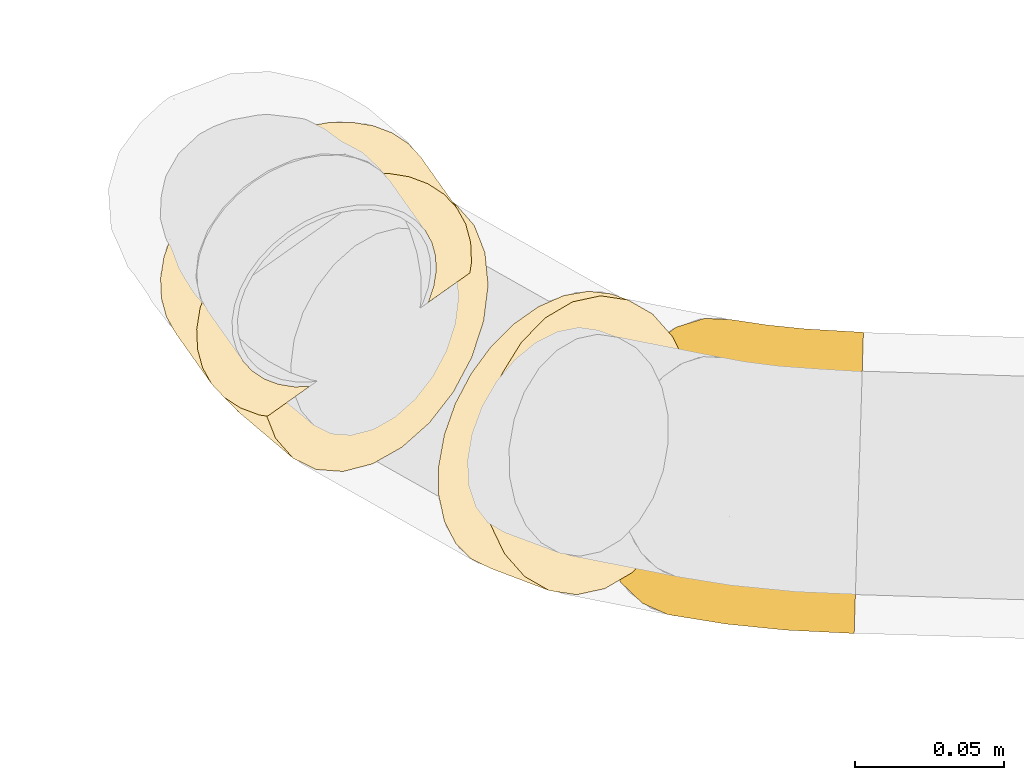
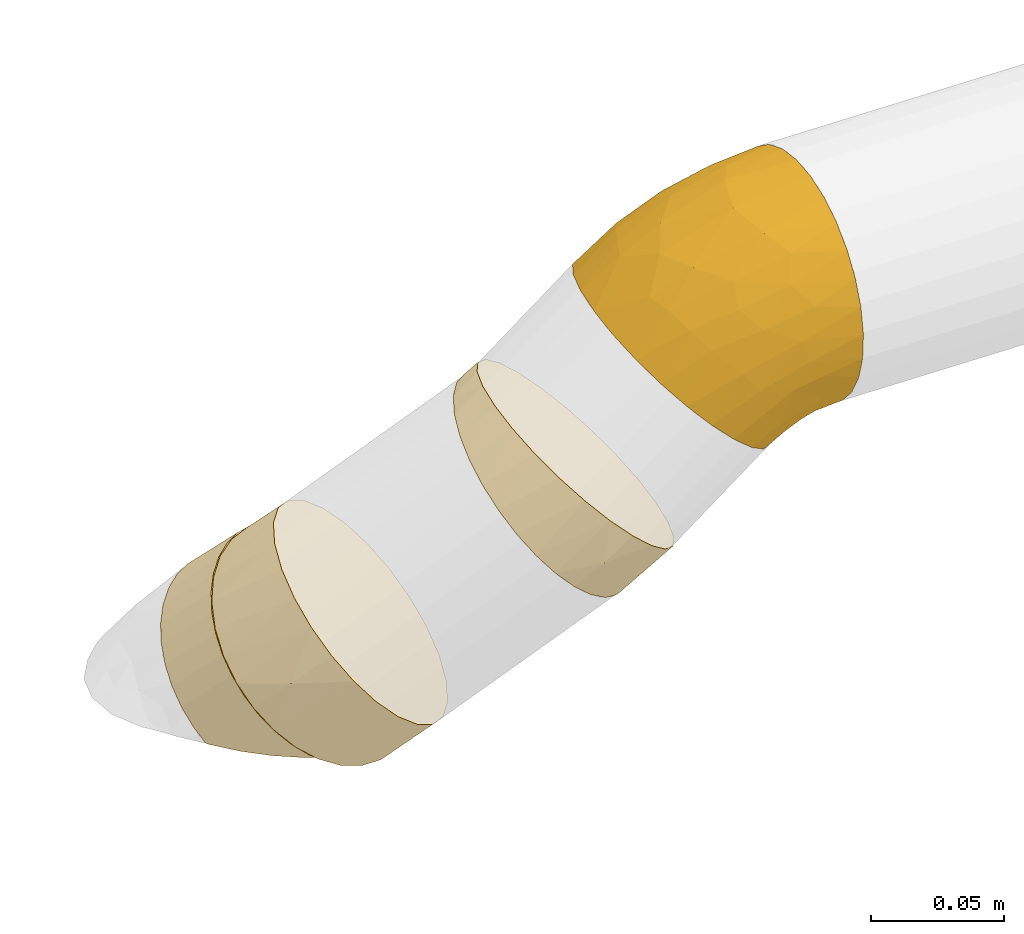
# One storey, part 31 of 156: 4 coverings.
"""IFC2X3 building model written with IfcOpenShell, lengths in millimetres."""

from ifc_helpers import new_model, entity, si_unit, converted_unit, derived_unit, direction, frame, origin_with_axes, place, context, subcontext, project, spatial, open_shell, faceted_brep, surface_model, source, transform, mapped, element, save


model = new_model("IFC2X3")

# Units and contexts
model_context = context("Model", 3, precision=0.01, world=frame((0.0, 4.29681676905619e-09, 0.0)), true_north=direction((4.01073788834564e-13, 1.0)))
plan_context = context("Plan", 3, precision=0.01, world=frame((0.0, 4.29681676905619e-09, 0.0)), true_north=direction((4.01073788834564e-13, 1.0)))
body_context = subcontext(model_context, "Body", "Model", "MODEL_VIEW")
ifc_project = project(units=[converted_unit("PLANEANGLEUNIT", "DEGREE", entity("IfcPositiveLengthMeasure", 0.0174532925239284), si_unit("PLANEANGLEUNIT", "RADIAN"), dimensions=[0, 0, 0, 0, 0, 0, 0]), si_unit("AREAUNIT", "SQUARE_METRE"), si_unit("LENGTHUNIT", "METRE", prefix="MILLI"), si_unit("MASSUNIT", "GRAM", prefix="KILO"), si_unit("POWERUNIT", "WATT"), si_unit("PRESSUREUNIT", "PASCAL", prefix="KILO"), si_unit("FORCEUNIT", "NEWTON", prefix="KILO"), si_unit("ELECTRICVOLTAGEUNIT", "VOLT"), si_unit("ELECTRICCURRENTUNIT", "AMPERE"), si_unit("THERMODYNAMICTEMPERATUREUNIT", "DEGREE_CELSIUS"), si_unit("TIMEUNIT", "SECOND"), si_unit("VOLUMEUNIT", "CUBIC_METRE"), derived_unit("LINEARVELOCITYUNIT", [(si_unit("LENGTHUNIT", "METRE"), 1), (si_unit("TIMEUNIT", "SECOND"), -1)]), derived_unit("VOLUMETRICFLOWRATEUNIT", [(si_unit("VOLUMEUNIT", "CUBIC_METRE"), 1), (si_unit("TIMEUNIT", "SECOND"), -1)]), derived_unit("THERMALTRANSMITTANCEUNIT", [(si_unit("POWERUNIT", "WATT"), 1), (si_unit("THERMODYNAMICTEMPERATUREUNIT", "KELVIN"), -1), (si_unit("AREAUNIT", "SQUARE_METRE"), -1)]), derived_unit("SOUNDPRESSUREUNIT", [(si_unit("PRESSUREUNIT", "PASCAL"), 1)])], contexts=[model_context, plan_context])

# Site, building, storey
site_placement = place(None, frame((0.0, -4.29681676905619e-09, 0.0), z_axis=(0.0, 0.0, 1.0), x_axis=(1.0, 0.0, 0.0)))
site = spatial("IfcSite", under=ifc_project, at=site_placement, CompositionType="ELEMENT")
building_placement = place(site_placement, frame((0.0, 4.29681676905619e-09, 0.0), z_axis=(0.0, 0.0, 1.0), x_axis=(1.0, 0.0, 0.0)))
building = spatial("IfcBuilding", under=site, at=building_placement, Name="mc-building", CompositionType="ELEMENT")
storey_placement = place(building_placement, frame((0.0, 0.0, 205200.0), z_axis=(0.0, 0.0, 1.0), x_axis=(1.0, 0.0, 0.0)))
storey = spatial("IfcBuildingStorey", under=building, at=storey_placement, Name="Nivå D + 1,2 m", CompositionType="ELEMENT", Elevation=205200.0)

# Coverings
shared_shape_1 = source(origin_with_axes(), body_context, "Body", "SurfaceModel", [
    surface_model("IfcShellBasedSurfaceModel", [(-2.96418, 49.99276, 11.24292), (-2.06482, 46.37267, -21.90382), (-3.26977, 51.22279, 0.0), (1.31637, 32.76283, 39.48835), (-2.06305, 46.36553, 21.91909), (3.62499, 23.47025, 45.50245), (6.19832, 13.11219, 49.23533), (18.42713, -36.11075, 31.47888), (-0.61188, 40.52435, 31.49394), (16.49962, -28.35219, 39.47635), (1.31274, 32.77744, -39.47635), (-0.61477, 40.53601, -31.47888), (-2.96485, 49.99543, -11.23089), (3.62131, 23.48507, -45.49509), (6.19542, 13.12386, -49.23258), (20.77654, -45.56751, -11.24292), (14.18736, -19.04499, -45.50245), (8.90618, 2.21263, -50.5), (8.90618, 2.21263, 50.5), (11.61694, -8.69861, 49.23258), (14.19105, -19.05982, 45.49509), (20.7772, -45.57017, 11.23089), (19.87718, -41.94742, 21.90382), (16.49599, -28.33758, -39.48835), (11.61403, -8.68693, -49.23533), (18.42424, -36.0991, -31.49394), (19.8754, -41.94028, -21.91909), (21.08213, -46.79754, 0.0), (-9.17691, 25.25, -43.73428), (-9.17691, 50.5, 0.0), (-9.17691, 48.77925, -13.07036), (-9.17691, 43.73428, -25.25), (-9.17691, 13.07036, 48.77925), (-9.17691, 35.70889, -35.70889), (-9.17691, 13.07036, -48.77925), (-9.17691, 48.77925, 13.07036), (-9.17691, 35.70889, 35.70889), (-9.17691, 43.73428, 25.25), (-9.17691, 25.25, 43.73428), (-9.17691, 0.0, 50.5), (-9.17691, 0.0, -50.5), (-9.17691, -35.70889, -35.70889), (-9.17691, -13.07036, -48.77925), (-9.17691, -25.25, -43.73428), (-9.17691, -25.25, 43.73428), (-9.17691, -43.73428, -25.25), (-9.17691, -48.77925, -13.07036), (-9.17691, -50.5, 0.0), (-9.17691, -35.70889, 35.70889), (-9.17691, -13.07036, 48.77925), (-9.17691, -43.73428, 25.25), (-9.17691, -48.77925, 13.07036), (-0.06794, 0.55521, 50.5), (6.06544, -49.57095, 0.0), (-6.20131, 50.68137, 0.0), (-0.06794, 0.55521, -50.5)], [open_shell([[[0, 1, 2]], [[3, 0, 4]], [[5, 6, 3]], [[7, 1, 0]], [[4, 8, 3]], [[9, 0, 3]], [[1, 10, 11]], [[1, 12, 2]], [[13, 10, 14]], [[14, 10, 1]], [[1, 15, 14]], [[16, 17, 14]], [[3, 6, 18]], [[18, 19, 20]], [[20, 9, 3]], [[7, 21, 1]], [[22, 21, 7]], [[7, 0, 9]], [[1, 21, 15]], [[16, 15, 23]], [[16, 24, 17]], [[15, 25, 23]], [[26, 25, 15]], [[15, 16, 14]], [[21, 27, 15]], [[3, 18, 20]], [[28, 29, 30]], [[28, 30, 31]], [[29, 28, 32]], [[28, 31, 33]], [[32, 28, 34]], [[35, 36, 37]], [[36, 35, 32]], [[36, 32, 38]], [[35, 29, 32]], [[34, 39, 32]], [[34, 40, 39]], [[41, 40, 42]], [[41, 42, 43]], [[44, 41, 45]], [[41, 44, 39]], [[46, 47, 45]], [[44, 47, 48]], [[49, 39, 44]], [[50, 47, 51]], [[47, 50, 48]], [[45, 47, 44]], [[39, 40, 41]], [[7, 48, 50]], [[48, 9, 44]], [[51, 22, 50]], [[52, 49, 19]], [[52, 39, 49]], [[20, 49, 44]], [[51, 47, 53]], [[22, 7, 50]], [[51, 21, 22]], [[27, 21, 53]], [[52, 19, 18]], [[9, 20, 44]], [[19, 49, 20]], [[48, 7, 9]], [[53, 21, 51]], [[32, 39, 52]], [[36, 38, 3]], [[32, 5, 38]], [[35, 37, 4]], [[37, 36, 8]], [[29, 35, 54]], [[6, 32, 52]], [[8, 36, 3]], [[6, 5, 32]], [[3, 38, 5]], [[4, 0, 35]], [[37, 8, 4]], [[0, 2, 54]], [[54, 35, 0]], [[6, 52, 18]], [[31, 30, 1]], [[54, 30, 29]], [[33, 31, 11]], [[34, 28, 13]], [[28, 33, 10]], [[40, 34, 55]], [[12, 30, 54]], [[11, 31, 1]], [[30, 12, 1]], [[10, 33, 11]], [[13, 14, 34]], [[28, 10, 13]], [[14, 17, 55]], [[55, 34, 14]], [[12, 54, 2]], [[16, 43, 42]], [[40, 55, 42]], [[41, 43, 23]], [[26, 46, 45]], [[45, 41, 25]], [[46, 53, 47]], [[24, 42, 55]], [[24, 16, 42]], [[23, 43, 16]], [[41, 23, 25]], [[26, 15, 46]], [[45, 25, 26]], [[15, 27, 53]], [[53, 46, 15]], [[24, 55, 17]]])]),
])
covering_1_placement = place(storey_placement, frame((334001.44758, 461087.74219, 4101.22159999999), z_axis=(0.709334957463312, 0.0249469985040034, -0.70442995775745), x_axis=(-0.700370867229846, 0.137698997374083, -0.700371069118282)))
element("IfcCovering", 1, at=covering_1_placement, inside=storey, Name="BI17T - Cellegummi 13 mm SPV fett", PredefinedType="INSULATION", context=body_context, shape_type="MappedRepresentation", body=[
    mapped(shared_shape_1, transform((0.0, 0.0, 0.0), scale=1.0)),
])
shared_shape_2 = source(origin_with_axes(), body_context, "Body", "SurfaceModel", [
    surface_model("IfcShellBasedSurfaceModel", [(-4.14386, 50.62592, 11.24292), (-4.14475, 50.62852, -11.23089), (-4.55499, 51.82481, 0.0), (-0.97912, 41.39725, 31.49394), (-2.93149, 47.09053, 21.91909), (4.72109, 24.77493, 45.50245), (8.1832, 14.67913, 49.23533), (1.61512, 33.83223, 39.48835), (8.1793, 14.69051, -49.23258), (24.63561, -33.29753, 31.47888), (-0.98301, 41.40861, -31.47888), (-2.93387, 47.09749, -21.90382), (4.71614, 24.78938, -45.49509), (1.61023, 33.84648, -39.47635), (15.4694, -6.56806, -49.23533), (11.8263, 4.05554, -50.5), (11.8263, 4.05554, 50.5), (15.4733, -6.57944, 49.23258), (18.93646, -16.67831, 45.49509), (26.58647, -38.98642, 21.90382), (22.04237, -25.7354, 39.47635), (27.79646, -42.51485, -11.24292), (27.79735, -42.51744, 11.23089), (22.03748, -25.72116, -39.48835), (18.9315, -16.66386, -45.50245), (26.58409, -38.97946, -21.91909), (24.63172, -33.28617, -31.49394), (28.20759, -43.71373, 0.0), (-12.50235, 25.25, -43.73428), (-12.50235, 50.5, 0.0), (-12.50235, 48.77925, -13.07036), (-12.50235, 43.73428, -25.25), (-12.50235, 13.07036, 48.77925), (-12.50235, 35.70889, -35.70889), (-12.50235, 13.07036, -48.77925), (-12.50235, 48.77925, 13.07036), (-12.50235, 35.70889, 35.70889), (-12.50235, 43.73428, 25.25), (-12.50235, 25.25, 43.73428), (-12.50235, 0.0, 50.5), (-12.50235, 0.0, -50.5), (-12.50235, -35.70889, -35.70889), (-12.50235, -13.07036, -48.77925), (-12.50235, -25.25, -43.73428), (-12.50235, -25.25, 43.73428), (-12.50235, -43.73428, -25.25), (-12.50235, -48.77925, -13.07036), (-12.50235, -50.5, 0.0), (-12.50235, -35.70889, 35.70889), (-12.50235, -13.07036, 48.77925), (-12.50235, -43.73428, 25.25), (-12.50235, -48.77925, 13.07036), (-0.17017, 1.02083, 50.5), (8.1335, -48.79181, 0.0), (-8.47384, 50.83347, 0.0), (-0.17017, 1.02083, -50.5)], [open_shell([[[0, 1, 2]], [[3, 0, 4]], [[5, 6, 7]], [[8, 0, 7]], [[0, 3, 7]], [[9, 8, 7]], [[1, 10, 11]], [[1, 0, 10]], [[12, 13, 8]], [[8, 13, 10]], [[8, 10, 0]], [[8, 14, 15]], [[9, 7, 6]], [[9, 16, 17]], [[9, 17, 18]], [[14, 8, 9]], [[9, 19, 14]], [[9, 18, 20]], [[21, 19, 22]], [[14, 23, 24]], [[23, 14, 21]], [[25, 23, 21]], [[26, 23, 25]], [[14, 19, 21]], [[22, 27, 21]], [[9, 6, 16]], [[28, 29, 30]], [[28, 30, 31]], [[29, 28, 32]], [[28, 31, 33]], [[32, 28, 34]], [[35, 36, 37]], [[36, 35, 32]], [[36, 32, 38]], [[35, 29, 32]], [[34, 39, 32]], [[34, 40, 39]], [[41, 40, 42]], [[41, 42, 43]], [[44, 41, 45]], [[40, 41, 44]], [[46, 47, 45]], [[44, 47, 48]], [[49, 39, 44]], [[50, 47, 51]], [[47, 50, 48]], [[45, 47, 44]], [[44, 39, 40]], [[9, 48, 50]], [[48, 20, 44]], [[51, 19, 50]], [[52, 49, 17]], [[52, 39, 49]], [[18, 49, 44]], [[51, 47, 53]], [[19, 9, 50]], [[51, 22, 19]], [[27, 22, 53]], [[52, 17, 16]], [[20, 18, 44]], [[17, 49, 18]], [[48, 9, 20]], [[53, 22, 51]], [[32, 39, 52]], [[36, 38, 7]], [[32, 5, 38]], [[35, 37, 4]], [[37, 36, 3]], [[29, 35, 54]], [[6, 32, 52]], [[3, 36, 7]], [[6, 5, 32]], [[7, 38, 5]], [[4, 0, 35]], [[37, 3, 4]], [[0, 2, 54]], [[54, 35, 0]], [[6, 52, 16]], [[31, 30, 11]], [[54, 30, 29]], [[33, 31, 10]], [[34, 28, 12]], [[28, 33, 13]], [[40, 34, 55]], [[1, 30, 54]], [[10, 31, 11]], [[30, 1, 11]], [[13, 33, 10]], [[12, 8, 34]], [[28, 13, 12]], [[8, 15, 55]], [[55, 34, 8]], [[1, 54, 2]], [[24, 43, 42]], [[40, 55, 42]], [[41, 43, 23]], [[25, 46, 45]], [[45, 41, 26]], [[46, 53, 47]], [[14, 42, 55]], [[14, 24, 42]], [[23, 43, 24]], [[41, 23, 26]], [[25, 21, 46]], [[45, 26, 25]], [[21, 27, 53]], [[53, 46, 21]], [[14, 55, 15]]])]),
])
covering_2_placement = place(storey_placement, frame((333928.09222, 461129.09587, 4028.82000000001), z_axis=(0.361591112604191, -0.603222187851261, -0.710897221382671), x_axis=(-0.660534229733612, 0.372372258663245, -0.651945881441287)))
element("IfcCovering", 2, at=covering_2_placement, inside=storey, Name="BI17T - Cellegummi 13 mm SPV fett", PredefinedType="INSULATION", context=body_context, shape_type="MappedRepresentation", body=[
    mapped(shared_shape_2, transform((0.0, 0.0, 0.0), scale=1.0)),
])
shared_shape_3 = source(origin_with_axes(), body_context, "Body", "SurfaceModel", [
    surface_model("IfcShellBasedSurfaceModel", [(-12.94917, 56.85294, 11.24292), (-12.95112, 56.85487, -11.23089), (-13.84896, 57.74554, 0.0), (-6.02285, 49.98198, 31.49394), (-10.29578, 54.22076, 21.91909), (6.45256, 37.60628, 45.50245), (14.02969, 30.08972, 49.23533), (-0.34514, 44.34965, 39.48835), (56.95502, -12.49251, -11.24292), (6.44172, 37.61704, -45.49509), (54.30686, -9.86551, 21.90382), (-10.30101, 54.22594, -21.90382), (-6.03137, 49.99043, -31.47888), (-0.35583, 44.36026, -39.47635), (50.0287, -5.62155, -31.49394), (22.00293, 22.18021, -50.5), (14.02115, 30.0982, -49.23258), (22.00293, 22.18021, 50.5), (29.98471, 14.26223, 49.23258), (37.56413, 6.74339, 45.49509), (44.36168, 0.00017, 39.47635), (50.03723, -5.63, 31.47888), (56.95697, -12.49444, 11.23089), (37.55329, 6.75415, -45.50245), (44.35099, 0.01078, -39.48835), (29.97617, 14.27071, -49.23533), (54.30164, -9.86033, -21.91909), (57.85482, -13.38511, 0.0), (-31.24245, 25.25, -43.73428), (-31.24245, 50.5, 0.0), (-31.24245, 48.77925, -13.07036), (-31.24245, 43.73428, -25.25), (-31.24245, 13.07036, 48.77925), (-31.24245, 35.70889, -35.70889), (-31.24245, 13.07036, -48.77925), (-31.24245, 48.77925, 13.07036), (-31.24245, 35.70889, 35.70889), (-31.24245, 43.73428, 25.25), (-31.24245, 25.25, 43.73428), (-31.24245, 0.0, 50.5), (-31.24245, 0.0, -50.5), (-31.24245, -35.70889, -35.70889), (-31.24245, -13.07036, -48.77925), (-31.24245, -25.25, -43.73428), (-31.24245, -25.25, 43.73428), (-31.24245, -43.73428, -25.25), (-31.24245, -48.77925, -13.07036), (-31.24245, -50.5, 0.0), (-31.24245, -35.70889, 35.70889), (-31.24245, -13.07036, 48.77925), (-31.24245, -43.73428, 25.25), (-31.24245, -48.77925, 13.07036), (28.0528, -19.58459, 34.75907), (1.40145, -46.18014, 0.0), (-11.33865, -47.402, 12.17772), (-8.79725, -38.4658, 29.9441), (31.79806, -33.51794, 0.0), (7.79712, -42.40956, 13.2531), (-9.19134, -30.92077, 38.0599), (34.45125, -28.88256, 15.96037), (15.05712, -34.29835, 25.30863), (-2.40223, 5.76676, 50.5), (-9.58845, -7.00078, 49.53767), (10.05879, 2.01758, 49.71699), (-8.37202, -17.63575, 46.18862), (9.52049, -20.68631, 41.33806), (14.94482, -6.28727, 46.99224), (-9.37202, -44.10716, 20.62001), (8.94004, -30.30636, 33.58619), (36.32581, -21.9885, 26.14661), (27.91073, -9.13118, 42.12944), (-20.96641, 48.58428, 19.32551), (-26.59828, 47.21533, 18.9001), (-22.71435, 42.80531, 28.49178), (-14.01421, 12.68328, 49.42891), (-1.19155, 17.53037, 49.46992), (-21.99373, 19.66772, 46.82987), (-11.05788, 23.11328, 46.65592), (-16.43611, 51.25023, 18.44017), (-19.41246, 52.3762, 10.14774), (8.36808, 13.01023, 50.5), (-24.42861, 50.35346, 10.34565), (-18.30301, 54.75001, 0.0), (-23.03498, 36.57233, 35.71216), (-19.33126, 30.03512, 41.70011), (-15.84224, 38.84534, 35.7157), (-8.65532, 42.84183, 35.7157), (-5.61147, 34.25086, 42.76423), (-14.07786, 47.7027, 26.87553), (-1.32771, 26.99128, 47.01535), (-21.82131, 52.38381, 0.0), (-25.97899, 51.55246, 0.0), (-15.1298, 3.22181, 50.5), (-3.601, 35.60565, -42.7546), (-10.81307, 41.44562, -35.70208), (-0.91829, 25.19066, -47.6637), (-12.72704, 48.61204, -26.86021), (-26.53188, 51.4419, 0.0), (-24.01001, 48.96781, -15.74791), (-16.82234, 2.88338, -50.5), (-18.63585, 45.33152, -26.86021), (-19.60152, 37.47976, -35.70238), (-24.76112, 42.23385, -28.63172), (-15.38913, 17.92603, -47.97613), (-22.25111, 29.52633, -41.58919), (-17.02894, 51.65508, -16.67216), (-2.40223, 5.76676, -50.5), (-12.42278, 30.70796, -42.7546), (8.36808, 13.01023, -50.5), (-9.61163, -6.99574, -49.5398), (14.93948, -6.27462, -46.9976), (-8.36588, -17.62047, -46.19453), (28.04683, -19.57294, -34.77281), (36.32066, -21.98087, -26.1618), (15.05252, -34.29089, -25.3236), (34.44643, -28.88031, -15.97381), (-11.34949, -47.40054, -12.19054), (10.02146, 1.99916, -49.71741), (7.77533, -42.41366, -13.26406), (-9.18547, -30.91642, -38.06257), (-8.80762, -38.46757, -29.94447), (-9.38168, -44.10586, -20.62675), (9.51638, -20.67224, -41.34827), (27.90261, -9.11858, -42.13933), (8.94202, -30.30822, -33.58345)], [open_shell([[[0, 1, 2]], [[3, 0, 4]], [[5, 6, 7]], [[8, 9, 0]], [[0, 3, 7]], [[0, 7, 10]], [[11, 9, 12]], [[11, 1, 0]], [[13, 12, 9]], [[14, 15, 16]], [[0, 9, 11]], [[9, 14, 16]], [[7, 6, 17]], [[7, 18, 10]], [[10, 18, 19]], [[20, 21, 10]], [[8, 0, 10]], [[10, 19, 20]], [[8, 10, 22]], [[23, 14, 24]], [[23, 25, 15]], [[15, 14, 23]], [[26, 14, 8]], [[8, 14, 9]], [[22, 27, 8]], [[18, 7, 17]], [[28, 29, 30]], [[28, 30, 31]], [[29, 28, 32]], [[28, 31, 33]], [[32, 28, 34]], [[35, 36, 37]], [[36, 35, 32]], [[36, 32, 38]], [[35, 29, 32]], [[34, 39, 32]], [[34, 40, 39]], [[41, 40, 42]], [[41, 42, 43]], [[44, 41, 45]], [[41, 44, 39]], [[46, 47, 45]], [[44, 47, 48]], [[49, 39, 44]], [[50, 47, 51]], [[47, 50, 48]], [[45, 47, 44]], [[39, 40, 41]], [[20, 52, 21]], [[47, 53, 54]], [[50, 55, 48]], [[53, 56, 57]], [[58, 44, 48]], [[59, 60, 57]], [[61, 62, 63]], [[58, 64, 44]], [[62, 39, 49]], [[64, 65, 66]], [[54, 67, 51]], [[65, 58, 68]], [[55, 58, 48]], [[64, 62, 49]], [[59, 57, 56]], [[56, 22, 59]], [[10, 21, 69]], [[10, 69, 59]], [[66, 62, 64]], [[27, 22, 56]], [[70, 52, 20]], [[44, 64, 49]], [[60, 55, 67]], [[63, 17, 61]], [[19, 18, 66]], [[66, 65, 70]], [[59, 69, 60]], [[52, 69, 21]], [[19, 70, 20]], [[54, 57, 67]], [[66, 63, 62]], [[10, 59, 22]], [[39, 62, 61]], [[69, 52, 60]], [[67, 55, 50]], [[60, 52, 68]], [[68, 58, 55]], [[58, 65, 64]], [[60, 68, 55]], [[65, 68, 52]], [[66, 18, 63]], [[17, 63, 18]], [[51, 67, 50]], [[60, 67, 57]], [[66, 70, 19]], [[52, 70, 65]], [[47, 54, 51]], [[53, 57, 54]], [[71, 72, 73]], [[74, 61, 75]], [[32, 74, 76]], [[77, 74, 75]], [[78, 79, 71]], [[80, 6, 75]], [[71, 81, 72]], [[0, 82, 79]], [[83, 84, 85]], [[86, 87, 7]], [[73, 88, 71]], [[77, 89, 87]], [[87, 5, 7]], [[6, 5, 89]], [[3, 86, 7]], [[0, 79, 78]], [[84, 36, 38]], [[89, 77, 75]], [[80, 75, 61]], [[76, 77, 84]], [[90, 91, 81]], [[78, 71, 88]], [[79, 81, 71]], [[84, 87, 85]], [[82, 90, 79]], [[0, 2, 82]], [[88, 3, 4]], [[86, 88, 85]], [[81, 79, 90]], [[74, 92, 61]], [[80, 17, 6]], [[35, 91, 29]], [[32, 39, 92]], [[91, 35, 81]], [[72, 81, 35]], [[35, 37, 72]], [[73, 85, 88]], [[72, 37, 73]], [[36, 73, 37]], [[76, 74, 77]], [[32, 92, 74]], [[77, 87, 84]], [[38, 32, 76]], [[85, 73, 83]], [[38, 76, 84]], [[88, 86, 3]], [[87, 86, 85]], [[88, 4, 78]], [[0, 78, 4]], [[6, 89, 75]], [[5, 87, 89]], [[73, 36, 83]], [[36, 84, 83]], [[93, 94, 13]], [[9, 16, 95]], [[94, 96, 12]], [[30, 97, 98]], [[34, 99, 40]], [[100, 101, 102]], [[103, 28, 104]], [[82, 2, 1]], [[94, 101, 100]], [[98, 105, 100]], [[98, 100, 102]], [[99, 34, 103]], [[11, 105, 1]], [[106, 103, 95]], [[12, 96, 11]], [[12, 13, 94]], [[31, 30, 98]], [[33, 101, 104]], [[96, 105, 11]], [[100, 96, 94]], [[103, 107, 95]], [[93, 13, 9]], [[106, 95, 108]], [[95, 16, 108]], [[82, 105, 90]], [[93, 95, 107]], [[101, 94, 107]], [[98, 90, 105]], [[28, 103, 34]], [[105, 82, 1]], [[16, 15, 108]], [[103, 106, 99]], [[105, 96, 100]], [[95, 93, 9]], [[94, 93, 107]], [[104, 101, 107]], [[102, 33, 31]], [[103, 104, 107]], [[33, 104, 28]], [[33, 102, 101]], [[98, 102, 31]], [[97, 30, 29]], [[97, 90, 98]], [[109, 110, 111]], [[112, 113, 114]], [[106, 109, 40]], [[112, 24, 14]], [[115, 113, 26]], [[43, 42, 111]], [[46, 116, 47]], [[109, 106, 117]], [[115, 118, 114]], [[109, 111, 42]], [[119, 43, 111]], [[45, 120, 121]], [[40, 109, 42]], [[41, 120, 45]], [[23, 110, 25]], [[111, 122, 119]], [[110, 23, 123]], [[46, 121, 116]], [[123, 23, 24]], [[113, 112, 14]], [[124, 114, 120]], [[122, 123, 112]], [[118, 115, 56]], [[113, 14, 26]], [[8, 27, 56]], [[118, 56, 53]], [[8, 56, 115]], [[113, 115, 114]], [[111, 110, 122]], [[8, 115, 26]], [[117, 110, 109]], [[117, 15, 25]], [[121, 46, 45]], [[120, 119, 124]], [[119, 120, 41]], [[121, 114, 118]], [[43, 119, 41]], [[124, 122, 112]], [[122, 124, 119]], [[114, 124, 112]], [[114, 121, 120]], [[121, 118, 116]], [[15, 117, 106]], [[25, 110, 117]], [[112, 123, 24]], [[110, 123, 122]], [[118, 53, 116]], [[47, 116, 53]]])]),
])
covering_3_placement = place(storey_placement, frame((334067.03438, 461074.84721, 4166.80840000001), z_axis=(0.0302489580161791, 0.986059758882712, 0.163618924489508), x_axis=(0.700370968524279, -0.137698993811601, 0.700370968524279)))
element("IfcCovering", 3, at=covering_3_placement, inside=storey, Name="BI17T - Cellegummi 13 mm SPV fett", PredefinedType="INSULATION", context=body_context, shape_type="MappedRepresentation", body=[
    mapped(shared_shape_3, transform((0.0, 0.0, 0.0), scale=1.0)),
])
covering_4_placement = place(storey_placement, frame((333922.71813, 461136.47567, 4020.27093999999), z_axis=(-0.621652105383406, -0.742322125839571, -0.25001304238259), x_axis=(-0.411377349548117, 0.581026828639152, -0.702265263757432)))
element("IfcCovering", 4, at=covering_4_placement, inside=storey, Name="BI17T - Cellegummi 13 mm SPV fett", PredefinedType="INSULATION", context=body_context, shape_type="Brep", body=[
    faceted_brep([(6.82121026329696e-13, 35.2289945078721, -12.846082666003), (4.71496247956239, 32.4759526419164, -18.75), (0.0, 32.4759526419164, -18.75), (10.1799476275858, 28.7266666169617, -24.1045353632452), (0.0, 28.7266666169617, -24.1045353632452), (16.2126709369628, 24.1045353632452, -28.7266666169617), (0.0, 24.1045353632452, -28.7266666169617), (22.6298311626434, 18.75, -32.4759526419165), (0.0, 18.75, -32.4759526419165), (29.23644613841, 12.8257553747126, -35.2384732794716), (0.0, 12.8257553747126, -35.2384732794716), (29.4, 12.6691793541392, -35.2804276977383), (29.4, 6.51180666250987, -36.9302907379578), (0.0, 6.51180666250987, -36.9302907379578), (29.4, -6.88863824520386e-15, -37.5), (0.0, -6.88863824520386e-15, -37.5), (29.4, -6.51180666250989, -36.9302907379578), (0.0, -6.51180666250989, -36.9302907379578), (29.4, -12.8257553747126, -35.2384732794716), (0.0, -12.8257553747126, -35.2384732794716), (29.4, -18.75, -32.4759526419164), (0.0, -18.75, -32.4759526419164), (29.4, -24.1045353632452, -28.7266666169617), (0.0, -24.1045353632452, -28.7266666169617), (29.4, -28.7266666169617, -24.1045353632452), (0.0, -28.7266666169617, -24.1045353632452), (29.4, -32.4759526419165, -18.75), (0.0, -32.4759526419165, -18.75), (29.4, -35.2384732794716, -12.8257553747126), (0.0, -35.2384732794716, -12.8257553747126), (29.4, -36.9302907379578, -6.51180666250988), (0.0, -36.9302907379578, -6.51180666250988), (29.4, -37.5, 4.59242549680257e-15), (0.0, -37.5, 4.59242549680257e-15), (29.4, -36.9302907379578, 6.5118066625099), (0.0, -36.9302907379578, 6.5118066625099), (29.4, -35.2384732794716, 12.8257553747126), (0.0, -35.2384732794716, 12.8257553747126), (29.4, -32.4759526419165, 18.75), (0.0, -32.4759526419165, 18.75), (29.4, -28.7266666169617, 24.1045353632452), (0.0, -28.7266666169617, 24.1045353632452), (29.4, -24.1045353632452, 28.7266666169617), (0.0, -24.1045353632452, 28.7266666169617), (29.4, -18.75, 32.4759526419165), (0.0, -18.75, 32.4759526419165), (29.4, -13.6384426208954, 34.8595109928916), (28.493705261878, -12.8257553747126, 35.2384732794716), (0.0, -12.8257553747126, 35.2384732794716), (21.8983741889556, -6.51180666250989, 36.9302907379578), (0.0, -6.51180666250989, 36.9302907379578), (15.5147228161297, 2.29621274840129e-15, 37.5), (0.0, 2.29621274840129e-15, 37.5), (9.53671516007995, 6.51180666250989, 36.9302907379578), (0.0, 6.51180666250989, 36.9302907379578), (4.14598995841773, 12.8257553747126, 35.2384732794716), (0.0, 12.8257553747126, 35.2384732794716), (0.0, 18.1196606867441, 32.7698846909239), (0.0, 12.091184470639, 48.842677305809), (2.83621683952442, 8.76923297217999, 49.7327915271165), (0.0, 8.76923297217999, 49.7327915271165), (10.8866004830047, 3.09223316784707e-15, 50.5), (0.0, 3.09223316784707e-15, 50.5), (19.4832509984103, -8.76923297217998, 49.7327915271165), (0.0, -8.76923297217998, 49.7327915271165), (28.3649635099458, -17.2720172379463, 47.4544773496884), (0.0, -17.2720172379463, 47.4544773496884), (29.4, -18.200149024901, 47.0216823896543), (29.4, -25.25, 43.7342828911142), (0.0, -25.25, 43.7342828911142), (29.4, -32.4607742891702, 38.6852443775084), (0.0, -32.4607742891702, 38.6852443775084), (29.4, -38.6852443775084, 32.4607742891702), (0.0, -38.6852443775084, 32.4607742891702), (29.4, -43.7342828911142, 25.25), (0.0, -43.7342828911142, 25.25), (29.4, -47.4544773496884, 17.2720172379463), (0.0, -47.4544773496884, 17.2720172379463), (29.4, -49.7327915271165, 8.76923297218), (0.0, -49.7327915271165, 8.76923297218), (29.4, -50.5, 6.18446633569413e-15), (0.0, -50.5, 6.18446633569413e-15), (29.4, -49.7327915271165, -8.76923297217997), (0.0, -49.7327915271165, -8.76923297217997), (29.4, -47.4544773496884, -17.2720172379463), (0.0, -47.4544773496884, -17.2720172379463), (29.4, -43.7342828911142, -25.25), (0.0, -43.7342828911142, -25.25), (29.4, -38.6852443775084, -32.4607742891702), (0.0, -38.6852443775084, -32.4607742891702), (29.4, -32.4607742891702, -38.6852443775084), (0.0, -32.4607742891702, -38.6852443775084), (29.4, -25.25, -43.7342828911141), (0.0, -25.25, -43.7342828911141), (29.4, -17.2720172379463, -47.4544773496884), (0.0, -17.2720172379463, -47.4544773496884), (29.4, -8.76923297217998, -49.7327915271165), (0.0, -8.76923297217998, -49.7327915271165), (29.4, -9.2766995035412e-15, -50.5), (0.0, -9.2766995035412e-15, -50.5), (29.4, 8.76923297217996, -49.7327915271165), (0.0, 8.76923297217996, -49.7327915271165), (29.4000000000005, 17.2386903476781, -47.4634072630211), (29.3651878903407, 17.2720172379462, -47.4544773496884), (0.0, 17.2720172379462, -47.4544773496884), (20.4682797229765, 25.25, -43.7342828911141), (0.0, 25.25, -43.7342828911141), (11.8265039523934, 32.4607742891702, -38.6852443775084), (0.0, 32.4607742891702, -38.6852443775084), (3.70243656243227, 38.6852443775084, -32.4607742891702), (0.0, 38.6852443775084, -32.4607742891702), (0.0, 41.2253233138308, -28.8331656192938), (29.4, 17.2720172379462, -47.4544773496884), (0.0, 35.2384732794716, -12.8257553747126)], [[[0, 1, 2]], [[1, 3, 4, 2]], [[3, 5, 6, 4]], [[5, 7, 8, 6]], [[7, 9, 10, 8]], [[9, 11, 12, 13, 10]], [[13, 12, 14, 15]], [[15, 14, 16, 17]], [[17, 16, 18, 19]], [[19, 18, 20, 21]], [[21, 20, 22, 23]], [[23, 22, 24, 25]], [[25, 24, 26, 27]], [[27, 26, 28, 29]], [[29, 28, 30, 31]], [[31, 30, 32, 33]], [[33, 32, 34, 35]], [[35, 34, 36, 37]], [[37, 36, 38, 39]], [[39, 38, 40, 41]], [[41, 40, 42, 43]], [[43, 42, 44, 45]], [[46, 47, 48, 45, 44]], [[47, 49, 50, 48]], [[49, 51, 52, 50]], [[51, 53, 54, 52]], [[53, 55, 56, 54]], [[55, 57, 56]], [[58, 59, 60]], [[59, 61, 62, 60]], [[61, 63, 64, 62]], [[63, 65, 66, 64]], [[65, 67, 68, 69, 66]], [[69, 68, 70, 71]], [[71, 70, 72, 73]], [[73, 72, 74, 75]], [[75, 74, 76, 77]], [[77, 76, 78, 79]], [[79, 78, 80, 81]], [[81, 80, 82, 83]], [[83, 82, 84, 85]], [[85, 84, 86, 87]], [[87, 86, 88, 89]], [[89, 88, 90, 91]], [[91, 90, 92, 93]], [[93, 92, 94, 95]], [[95, 94, 96, 97]], [[97, 96, 98, 99]], [[99, 98, 100, 101]], [[102, 103, 104, 101, 100]], [[103, 105, 106, 104]], [[105, 107, 108, 106]], [[107, 109, 110, 108]], [[109, 111, 110]], [[111, 0, 2, 4, 6, 8, 10, 13, 15, 17, 19, 21, 23, 25, 27, 29, 31, 33, 35, 37, 39, 41, 43, 45, 48, 50, 52, 54, 56, 57, 58, 60, 62, 64, 66, 69, 71, 73, 75, 77, 79, 81, 83, 85, 87, 89, 91, 93, 95, 97, 99, 101, 104, 106, 108, 110]], [[67, 46, 44, 42, 40, 38, 36, 34, 32, 30, 28, 26, 24, 22, 20, 18, 16, 14, 12, 11, 102, 100, 98, 96, 94, 92, 90, 88, 86, 84, 82, 80, 78, 76, 74, 72, 70, 68]], [[111, 109, 107, 105, 112, 11, 9, 7, 5, 3, 1, 113]], [[67, 65, 63, 61, 59, 58, 57, 55, 53, 51, 49, 47, 46]]], orient=[[False], [False], [False], [False], [False], [False], [False], [False], [False], [False], [False], [False], [False], [False], [False], [False], [False], [False], [False], [False], [False], [False], [False], [False], [False], [False], [False], [False], [False], [False], [False], [False], [False], [False], [False], [False], [False], [False], [False], [False], [False], [False], [False], [False], [False], [False], [False], [False], [False], [False], [False], [False], [False], [False], [False], [False], [False], [False]]),
])

save(model, "model.ifc")
